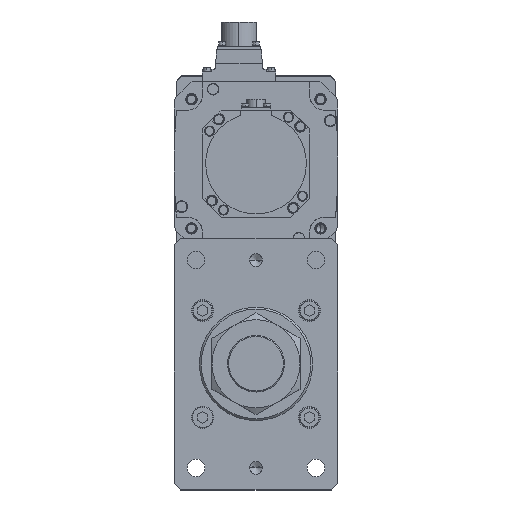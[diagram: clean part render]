
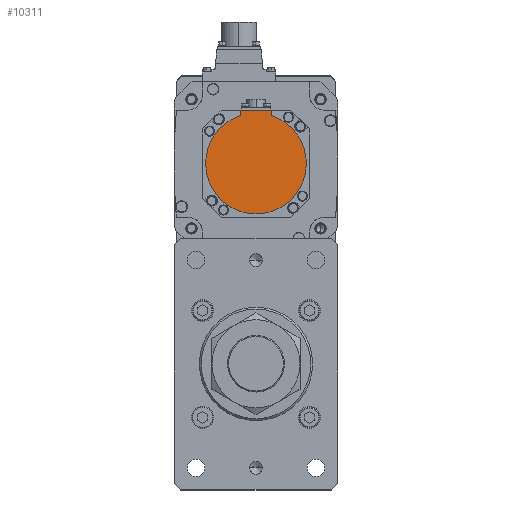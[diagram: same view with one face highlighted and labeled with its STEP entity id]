
A CAD part, top view. The second image highlights one B-rep face of the part: STEP entity #10311.
In plain terms, the highlighted planar face has unit normal (0, 0, 1) as drawn and (0, 0, -1) by its records, which use the part's own axes.
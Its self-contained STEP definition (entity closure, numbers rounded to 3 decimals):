
#2683 = VECTOR ( 'NONE', #13503, 1000. ) ;
#4053 = CARTESIAN_POINT ( 'NONE',  ( 12., -1.249, -146.5 ) ) ;
#4146 = DIRECTION ( 'NONE',  ( 1., 0., 0. ) ) ;
#4150 = CARTESIAN_POINT ( 'NONE',  ( 0., -42.5, -146.5 ) ) ;
#4279 = CIRCLE ( 'NONE', #6128, 40. ) ;
#4367 = VECTOR ( 'NONE', #6719, 1000. ) ;
#4589 = PLANE ( 'NONE',  #30750 ) ;
#5963 = EDGE_CURVE ( 'NONE', #22729, #30499, #7576, .T. ) ;
#6128 = AXIS2_PLACEMENT_3D ( 'NONE', #24590, #8548, #4146 ) ;
#6425 = LINE ( 'NONE', #4053, #4367 ) ;
#6719 = DIRECTION ( 'NONE',  ( 0., 1., 0. ) ) ;
#6865 = FACE_OUTER_BOUND ( 'NONE', #8709, .T. ) ;
#7576 = LINE ( 'NONE', #4150, #26422 ) ;
#8548 = DIRECTION ( 'NONE',  ( 0., 0., 1. ) ) ;
#8709 = EDGE_LOOP ( 'NONE', ( #33740, #23336, #27203, #15827, #14852, #33238 ) ) ;
#8789 = CARTESIAN_POINT ( 'NONE',  ( 0., 0., -146.5 ) ) ;
#9469 = VERTEX_POINT ( 'NONE', #29255 ) ;
#9779 = LINE ( 'NONE', #32200, #2683 ) ;
#10311 = ADVANCED_FACE ( 'NONE', ( #6865 ), #4589, .F. ) ;
#10597 = CARTESIAN_POINT ( 'NONE',  ( 12., -42.5, -146.5 ) ) ;
#12558 = CARTESIAN_POINT ( 'NONE',  ( 0., 0., -146.5 ) ) ;
#13503 = DIRECTION ( 'NONE',  ( 0., 1., 0. ) ) ;
#13863 = VERTEX_POINT ( 'NONE', #16311 ) ;
#14306 = AXIS2_PLACEMENT_3D ( 'NONE', #8789, #27261, #32720 ) ;
#14852 = ORIENTED_EDGE ( 'NONE', *, *, #27515, .F. ) ;
#15324 = VERTEX_POINT ( 'NONE', #26287 ) ;
#15827 = ORIENTED_EDGE ( 'NONE', *, *, #32670, .F. ) ;
#16311 = CARTESIAN_POINT ( 'NONE',  ( 12., -38.158, -146.5 ) ) ;
#17799 = DIRECTION ( 'NONE',  ( 0., 0., 1. ) ) ;
#17855 = EDGE_CURVE ( 'NONE', #9469, #24242, #23639, .T. ) ;
#18065 = DIRECTION ( 'NONE',  ( -1., 0., 0. ) ) ;
#18095 = AXIS2_PLACEMENT_3D ( 'NONE', #12558, #18343, #21024 ) ;
#18343 = DIRECTION ( 'NONE',  ( 0., 0., 1. ) ) ;
#20371 = DIRECTION ( 'NONE',  ( 1., 0., 0. ) ) ;
#21024 = DIRECTION ( 'NONE',  ( 1., 0., 0. ) ) ;
#21428 = CIRCLE ( 'NONE', #14306, 40. ) ;
#22724 = EDGE_CURVE ( 'NONE', #30499, #24242, #9779, .T. ) ;
#22729 = VERTEX_POINT ( 'NONE', #10597 ) ;
#23336 = ORIENTED_EDGE ( 'NONE', *, *, #17855, .F. ) ;
#23639 = CIRCLE ( 'NONE', #18095, 40. ) ;
#24242 = VERTEX_POINT ( 'NONE', #31983 ) ;
#24590 = CARTESIAN_POINT ( 'NONE',  ( 0., 0., -146.5 ) ) ;
#26287 = CARTESIAN_POINT ( 'NONE',  ( 40., 0., -146.5 ) ) ;
#26422 = VECTOR ( 'NONE', #18065, 1000. ) ;
#27203 = ORIENTED_EDGE ( 'NONE', *, *, #29401, .F. ) ;
#27261 = DIRECTION ( 'NONE',  ( 0., 0., 1. ) ) ;
#27515 = EDGE_CURVE ( 'NONE', #22729, #13863, #6425, .T. ) ;
#29255 = CARTESIAN_POINT ( 'NONE',  ( -40., 0., -146.5 ) ) ;
#29401 = EDGE_CURVE ( 'NONE', #15324, #9469, #21428, .T. ) ;
#30499 = VERTEX_POINT ( 'NONE', #34266 ) ;
#30750 = AXIS2_PLACEMENT_3D ( 'NONE', #31194, #17799, #20371 ) ;
#31194 = CARTESIAN_POINT ( 'NONE',  ( 0., -1.249, -146.5 ) ) ;
#31983 = CARTESIAN_POINT ( 'NONE',  ( -12., -38.158, -146.5 ) ) ;
#32200 = CARTESIAN_POINT ( 'NONE',  ( -12., -40.329, -146.5 ) ) ;
#32670 = EDGE_CURVE ( 'NONE', #13863, #15324, #4279, .T. ) ;
#32720 = DIRECTION ( 'NONE',  ( 1., 0., 0. ) ) ;
#33238 = ORIENTED_EDGE ( 'NONE', *, *, #5963, .T. ) ;
#33740 = ORIENTED_EDGE ( 'NONE', *, *, #22724, .T. ) ;
#34266 = CARTESIAN_POINT ( 'NONE',  ( -12., -42.5, -146.5 ) ) ;
